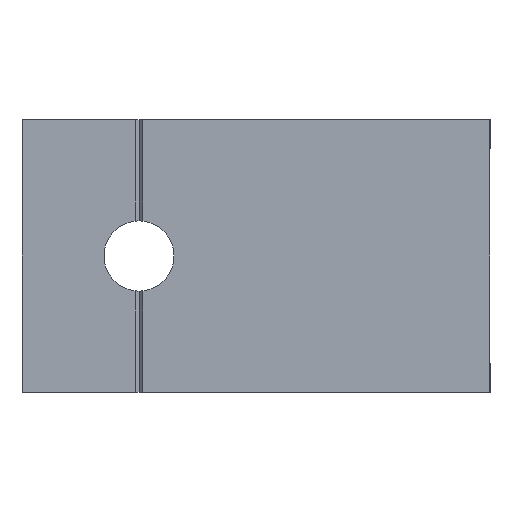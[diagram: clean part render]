
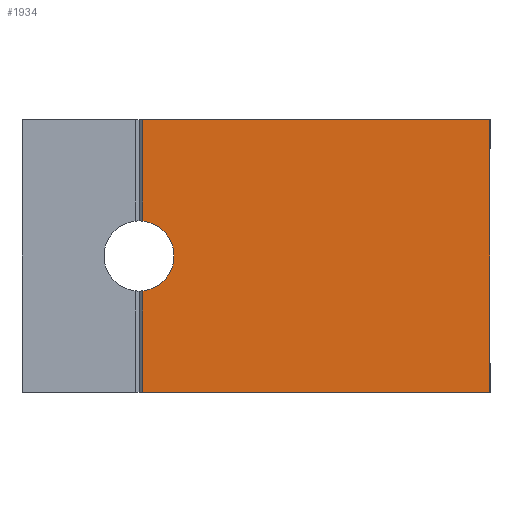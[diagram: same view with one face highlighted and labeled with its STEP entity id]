
A CAD part, left-side view. The second image highlights one B-rep face of the part: STEP entity #1934.
In plain terms, the highlighted planar face has unit normal (-1, 0, 0).
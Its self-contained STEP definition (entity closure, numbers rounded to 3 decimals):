
#19 = ORIENTED_EDGE ( 'NONE', *, *, #734, .F. ) ;
#26 = CARTESIAN_POINT ( 'NONE',  ( -30., 14.5, -15. ) ) ;
#44 = VERTEX_POINT ( 'NONE', #518 ) ;
#48 = CARTESIAN_POINT ( 'NONE',  ( -30., 14.5, -50. ) ) ;
#53 = EDGE_CURVE ( 'NONE', #44, #255, #2031, .T. ) ;
#81 = DIRECTION ( 'NONE',  ( 0., 0., -1. ) ) ;
#135 = PLANE ( 'NONE',  #869 ) ;
#138 = DIRECTION ( 'NONE',  ( 0., 1., 0. ) ) ;
#168 = DIRECTION ( 'NONE',  ( -1., 0., 0. ) ) ;
#194 = DIRECTION ( 'NONE',  ( 0., 0., -1. ) ) ;
#237 = CARTESIAN_POINT ( 'NONE',  ( -30., -30., -50. ) ) ;
#255 = VERTEX_POINT ( 'NONE', #1714 ) ;
#313 = FACE_OUTER_BOUND ( 'NONE', #1737, .T. ) ;
#408 = VERTEX_POINT ( 'NONE', #48 ) ;
#464 = LINE ( 'NONE', #1856, #1241 ) ;
#518 = CARTESIAN_POINT ( 'NONE',  ( -30., 14.5, -28.028 ) ) ;
#568 = DIRECTION ( 'NONE',  ( 0., 0., -1. ) ) ;
#667 = ORIENTED_EDGE ( 'NONE', *, *, #707, .T. ) ;
#707 = EDGE_CURVE ( 'NONE', #1588, #1227, #464, .T. ) ;
#720 = LINE ( 'NONE', #1189, #1074 ) ;
#734 = EDGE_CURVE ( 'NONE', #876, #408, #918, .T. ) ;
#752 = DIRECTION ( 'NONE',  ( 1., 0., 0. ) ) ;
#776 = CARTESIAN_POINT ( 'NONE',  ( -30., 14.5, -15. ) ) ;
#815 = EDGE_CURVE ( 'NONE', #1227, #44, #1436, .T. ) ;
#869 = AXIS2_PLACEMENT_3D ( 'NONE', #1725, #168, #913 ) ;
#876 = VERTEX_POINT ( 'NONE', #237 ) ;
#913 = DIRECTION ( 'NONE',  ( 0., -1., 0. ) ) ;
#918 = LINE ( 'NONE', #1556, #1404 ) ;
#925 = ORIENTED_EDGE ( 'NONE', *, *, #53, .T. ) ;
#1033 = CARTESIAN_POINT ( 'NONE',  ( -30., 15., -32.5 ) ) ;
#1057 = LINE ( 'NONE', #1526, #1070 ) ;
#1070 = VECTOR ( 'NONE', #1824, 1000. ) ;
#1074 = VECTOR ( 'NONE', #568, 1000. ) ;
#1088 = ORIENTED_EDGE ( 'NONE', *, *, #1869, .F. ) ;
#1129 = AXIS2_PLACEMENT_3D ( 'NONE', #1033, #752, #81 ) ;
#1189 = CARTESIAN_POINT ( 'NONE',  ( -30., 14.5, -15. ) ) ;
#1227 = VERTEX_POINT ( 'NONE', #776 ) ;
#1241 = VECTOR ( 'NONE', #1700, 1000. ) ;
#1269 = ORIENTED_EDGE ( 'NONE', *, *, #1464, .T. ) ;
#1404 = VECTOR ( 'NONE', #138, 1000. ) ;
#1422 = CARTESIAN_POINT ( 'NONE',  ( -30., -30., -15. ) ) ;
#1436 = LINE ( 'NONE', #26, #1673 ) ;
#1464 = EDGE_CURVE ( 'NONE', #255, #408, #720, .T. ) ;
#1526 = CARTESIAN_POINT ( 'NONE',  ( -30., -30., -15. ) ) ;
#1556 = CARTESIAN_POINT ( 'NONE',  ( -30., -30., -50. ) ) ;
#1588 = VERTEX_POINT ( 'NONE', #1422 ) ;
#1673 = VECTOR ( 'NONE', #194, 1000. ) ;
#1700 = DIRECTION ( 'NONE',  ( 0., 1., 0. ) ) ;
#1714 = CARTESIAN_POINT ( 'NONE',  ( -30., 14.5, -36.972 ) ) ;
#1725 = CARTESIAN_POINT ( 'NONE',  ( -30., -30., -15. ) ) ;
#1737 = EDGE_LOOP ( 'NONE', ( #1979, #925, #1269, #19, #1088, #667 ) ) ;
#1824 = DIRECTION ( 'NONE',  ( 0., 0., -1. ) ) ;
#1856 = CARTESIAN_POINT ( 'NONE',  ( -30., -30., -15. ) ) ;
#1869 = EDGE_CURVE ( 'NONE', #1588, #876, #1057, .T. ) ;
#1934 = ADVANCED_FACE ( 'NONE', ( #313 ), #135, .T. ) ;
#1979 = ORIENTED_EDGE ( 'NONE', *, *, #815, .T. ) ;
#2031 = CIRCLE ( 'NONE', #1129, 4.5 ) ;
